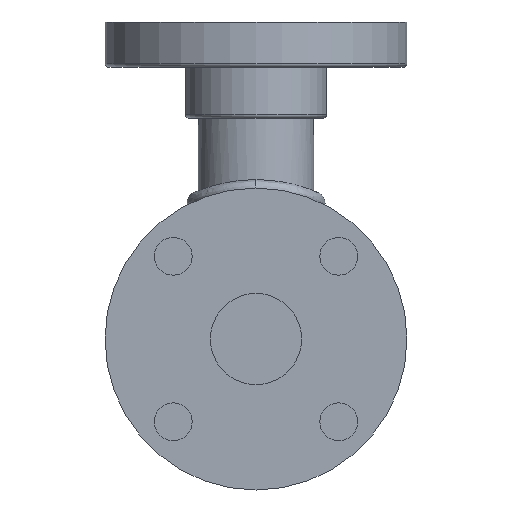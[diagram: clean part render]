
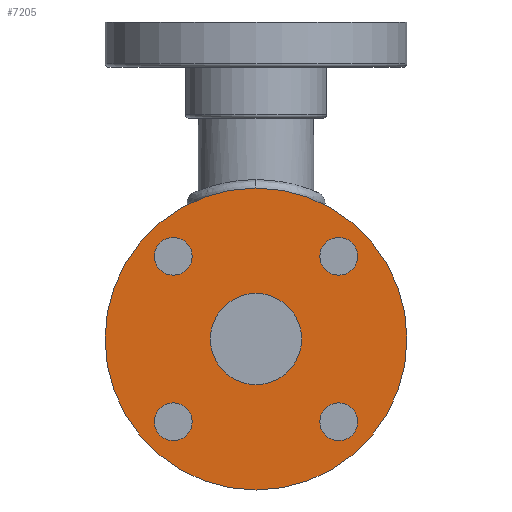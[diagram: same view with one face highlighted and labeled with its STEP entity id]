
A CAD part, front view. The second image highlights one B-rep face of the part: STEP entity #7205.
In plain terms, the highlighted planar face has unit normal (0, -1, 0).
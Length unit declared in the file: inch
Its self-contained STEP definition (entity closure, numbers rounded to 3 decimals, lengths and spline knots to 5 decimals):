
#118 = AXIS2_PLACEMENT_3D ( 'NONE', #2554, #6979, #3207 ) ;
#121 = DIRECTION ( 'NONE',  ( 0., 1., 0. ) ) ;
#147 = AXIS2_PLACEMENT_3D ( 'NONE', #5761, #1995, #6407 ) ;
#234 = CIRCLE ( 'NONE', #6678, 2.5 ) ;
#269 = ORIENTED_EDGE ( 'NONE', *, *, #8141, .F. ) ;
#312 = DIRECTION ( 'NONE',  ( 0., 1., 0. ) ) ;
#451 = CIRCLE ( 'NONE', #6727, 0.3125 ) ;
#469 = EDGE_LOOP ( 'NONE', ( #269, #4587 ) ) ;
#504 = VERTEX_POINT ( 'NONE', #8226 ) ;
#554 = AXIS2_PLACEMENT_3D ( 'NONE', #2886, #7289, #3530 ) ;
#662 = EDGE_CURVE ( 'NONE', #6268, #4602, #4008, .T. ) ;
#737 = EDGE_LOOP ( 'NONE', ( #3189, #3000 ) ) ;
#750 = AXIS2_PLACEMENT_3D ( 'NONE', #5882, #2128, #6545 ) ;
#759 = FACE_BOUND ( 'NONE', #4919, .T. ) ;
#813 = ORIENTED_EDGE ( 'NONE', *, *, #8051, .T. ) ;
#838 = CARTESIAN_POINT ( 'NONE',  ( 0., -3.4, -2.5 ) ) ;
#866 = CIRCLE ( 'NONE', #554, 0.3125 ) ;
#912 = AXIS2_PLACEMENT_3D ( 'NONE', #6213, #2437, #6869 ) ;
#936 = DIRECTION ( 'NONE',  ( 0., 1., 0. ) ) ;
#967 = FACE_OUTER_BOUND ( 'NONE', #469, .T. ) ;
#999 = CARTESIAN_POINT ( 'NONE',  ( 1.37002, -3.4, 1.37002 ) ) ;
#1332 = CARTESIAN_POINT ( 'NONE',  ( 0., -3.4, -0.756 ) ) ;
#1361 = VERTEX_POINT ( 'NONE', #6741 ) ;
#1491 = VERTEX_POINT ( 'NONE', #3075 ) ;
#1587 = CIRCLE ( 'NONE', #750, 0.756 ) ;
#1648 = DIRECTION ( 'NONE',  ( 1., 0., 0. ) ) ;
#1671 = DIRECTION ( 'NONE',  ( 0., 1., 0. ) ) ;
#1732 = CARTESIAN_POINT ( 'NONE',  ( -1.37002, -3.4, -1.37002 ) ) ;
#1905 = VERTEX_POINT ( 'NONE', #3577 ) ;
#1935 = EDGE_LOOP ( 'NONE', ( #1937, #6762 ) ) ;
#1937 = ORIENTED_EDGE ( 'NONE', *, *, #6629, .T. ) ;
#1995 = DIRECTION ( 'NONE',  ( 0., 1., 0. ) ) ;
#2097 = EDGE_LOOP ( 'NONE', ( #5497, #813 ) ) ;
#2128 = DIRECTION ( 'NONE',  ( 0., 1., 0. ) ) ;
#2244 = VERTEX_POINT ( 'NONE', #838 ) ;
#2349 = CIRCLE ( 'NONE', #6827, 0.756 ) ;
#2356 = DIRECTION ( 'NONE',  ( -1., 0., 0. ) ) ;
#2437 = DIRECTION ( 'NONE',  ( 0., 1., 0. ) ) ;
#2458 = FACE_BOUND ( 'NONE', #2097, .T. ) ;
#2554 = CARTESIAN_POINT ( 'NONE',  ( 1.37002, -3.4, 1.37002 ) ) ;
#2886 = CARTESIAN_POINT ( 'NONE',  ( -1.37002, -3.4, -1.37002 ) ) ;
#2924 = DIRECTION ( 'NONE',  ( 0., 1., 0. ) ) ;
#3000 = ORIENTED_EDGE ( 'NONE', *, *, #8086, .T. ) ;
#3054 = DIRECTION ( 'NONE',  ( 0., 1., 0. ) ) ;
#3075 = CARTESIAN_POINT ( 'NONE',  ( 0., -3.4, 0.756 ) ) ;
#3189 = ORIENTED_EDGE ( 'NONE', *, *, #6897, .T. ) ;
#3207 = DIRECTION ( 'NONE',  ( 1., 0., 0. ) ) ;
#3277 = VERTEX_POINT ( 'NONE', #7254 ) ;
#3284 = VERTEX_POINT ( 'NONE', #4111 ) ;
#3407 = ORIENTED_EDGE ( 'NONE', *, *, #7069, .T. ) ;
#3443 = CIRCLE ( 'NONE', #6552, 0.3125 ) ;
#3530 = DIRECTION ( 'NONE',  ( -1., 0., 0. ) ) ;
#3577 = CARTESIAN_POINT ( 'NONE',  ( 1.37002, -3.4, -1.05752 ) ) ;
#3867 = CIRCLE ( 'NONE', #118, 0.3125 ) ;
#4008 = CIRCLE ( 'NONE', #5476, 0.3125 ) ;
#4111 = CARTESIAN_POINT ( 'NONE',  ( -1.37002, -3.4, -1.05752 ) ) ;
#4121 = CARTESIAN_POINT ( 'NONE',  ( 0., -3.4, 0. ) ) ;
#4140 = FACE_BOUND ( 'NONE', #737, .T. ) ;
#4308 = CARTESIAN_POINT ( 'NONE',  ( -1.37002, -3.4, 1.05752 ) ) ;
#4354 = FACE_BOUND ( 'NONE', #5717, .T. ) ;
#4548 = CIRCLE ( 'NONE', #6409, 0.3125 ) ;
#4587 = ORIENTED_EDGE ( 'NONE', *, *, #6285, .F. ) ;
#4602 = VERTEX_POINT ( 'NONE', #6348 ) ;
#4605 = DIRECTION ( 'NONE',  ( 0., 0., 1. ) ) ;
#4741 = CARTESIAN_POINT ( 'NONE',  ( 0., -3.4, 0. ) ) ;
#4767 = CARTESIAN_POINT ( 'NONE',  ( -1.37002, -3.4, -1.68252 ) ) ;
#4769 = DIRECTION ( 'NONE',  ( 0., 0., 1. ) ) ;
#4919 = EDGE_LOOP ( 'NONE', ( #3407, #6204 ) ) ;
#5354 = DIRECTION ( 'NONE',  ( 0., 0., 1. ) ) ;
#5402 = DIRECTION ( 'NONE',  ( 0., 1., 0. ) ) ;
#5433 = CARTESIAN_POINT ( 'NONE',  ( -1.37002, -3.4, 1.37002 ) ) ;
#5439 = VERTEX_POINT ( 'NONE', #1332 ) ;
#5476 = AXIS2_PLACEMENT_3D ( 'NONE', #6833, #3054, #7468 ) ;
#5497 = ORIENTED_EDGE ( 'NONE', *, *, #6455, .T. ) ;
#5498 = ORIENTED_EDGE ( 'NONE', *, *, #8098, .T. ) ;
#5501 = CIRCLE ( 'NONE', #6739, 0.3125 ) ;
#5658 = CARTESIAN_POINT ( 'NONE',  ( 1.37002, -3.4, 1.68252 ) ) ;
#5717 = EDGE_LOOP ( 'NONE', ( #5728, #5498 ) ) ;
#5728 = ORIENTED_EDGE ( 'NONE', *, *, #662, .T. ) ;
#5761 = CARTESIAN_POINT ( 'NONE',  ( 1.37002, -3.4, -1.37002 ) ) ;
#5882 = CARTESIAN_POINT ( 'NONE',  ( 0., -3.4, 0. ) ) ;
#6065 = DIRECTION ( 'NONE',  ( 0., 0., 1. ) ) ;
#6125 = DIRECTION ( 'NONE',  ( 0., 1., 0. ) ) ;
#6204 = ORIENTED_EDGE ( 'NONE', *, *, #8191, .T. ) ;
#6213 = CARTESIAN_POINT ( 'NONE',  ( 0., -3.4, 0. ) ) ;
#6268 = VERTEX_POINT ( 'NONE', #4308 ) ;
#6285 = EDGE_CURVE ( 'NONE', #3277, #2244, #8246, .T. ) ;
#6348 = CARTESIAN_POINT ( 'NONE',  ( -1.37002, -3.4, 1.68252 ) ) ;
#6407 = DIRECTION ( 'NONE',  ( 0., 0., -1. ) ) ;
#6409 = AXIS2_PLACEMENT_3D ( 'NONE', #1732, #6125, #2356 ) ;
#6455 = EDGE_CURVE ( 'NONE', #5439, #1491, #1587, .T. ) ;
#6467 = CARTESIAN_POINT ( 'NONE',  ( 0., -3.4, 0. ) ) ;
#6545 = DIRECTION ( 'NONE',  ( 0., 0., 1. ) ) ;
#6552 = AXIS2_PLACEMENT_3D ( 'NONE', #999, #5402, #1648 ) ;
#6622 = VERTEX_POINT ( 'NONE', #4767 ) ;
#6629 = EDGE_CURVE ( 'NONE', #6622, #3284, #866, .T. ) ;
#6678 = AXIS2_PLACEMENT_3D ( 'NONE', #4741, #936, #5354 ) ;
#6689 = CARTESIAN_POINT ( 'NONE',  ( 1.37002, -3.4, -1.37002 ) ) ;
#6727 = AXIS2_PLACEMENT_3D ( 'NONE', #5433, #1671, #6065 ) ;
#6739 = AXIS2_PLACEMENT_3D ( 'NONE', #6689, #2924, #7324 ) ;
#6741 = CARTESIAN_POINT ( 'NONE',  ( 1.37002, -3.4, -1.68252 ) ) ;
#6762 = ORIENTED_EDGE ( 'NONE', *, *, #8276, .T. ) ;
#6827 = AXIS2_PLACEMENT_3D ( 'NONE', #4121, #312, #4769 ) ;
#6833 = CARTESIAN_POINT ( 'NONE',  ( -1.37002, -3.4, 1.37002 ) ) ;
#6869 = DIRECTION ( 'NONE',  ( 0., 0., 1. ) ) ;
#6897 = EDGE_CURVE ( 'NONE', #1361, #1905, #8224, .T. ) ;
#6979 = DIRECTION ( 'NONE',  ( 0., 1., 0. ) ) ;
#7050 = VERTEX_POINT ( 'NONE', #5658 ) ;
#7069 = EDGE_CURVE ( 'NONE', #504, #7050, #3867, .T. ) ;
#7076 = PLANE ( 'NONE',  #8194 ) ;
#7205 = ADVANCED_FACE ( 'NONE', ( #4140, #4354, #967, #2458, #759, #7295 ), #7076, .F. ) ;
#7254 = CARTESIAN_POINT ( 'NONE',  ( 0., -3.4, 2.5 ) ) ;
#7289 = DIRECTION ( 'NONE',  ( 0., 1., 0. ) ) ;
#7295 = FACE_BOUND ( 'NONE', #1935, .T. ) ;
#7324 = DIRECTION ( 'NONE',  ( 0., 0., -1. ) ) ;
#7468 = DIRECTION ( 'NONE',  ( 0., 0., 1. ) ) ;
#8051 = EDGE_CURVE ( 'NONE', #1491, #5439, #2349, .T. ) ;
#8086 = EDGE_CURVE ( 'NONE', #1905, #1361, #5501, .T. ) ;
#8098 = EDGE_CURVE ( 'NONE', #4602, #6268, #451, .T. ) ;
#8141 = EDGE_CURVE ( 'NONE', #2244, #3277, #234, .T. ) ;
#8191 = EDGE_CURVE ( 'NONE', #7050, #504, #3443, .T. ) ;
#8194 = AXIS2_PLACEMENT_3D ( 'NONE', #6467, #121, #4605 ) ;
#8224 = CIRCLE ( 'NONE', #147, 0.3125 ) ;
#8226 = CARTESIAN_POINT ( 'NONE',  ( 1.37002, -3.4, 1.05752 ) ) ;
#8246 = CIRCLE ( 'NONE', #912, 2.5 ) ;
#8276 = EDGE_CURVE ( 'NONE', #3284, #6622, #4548, .T. ) ;
